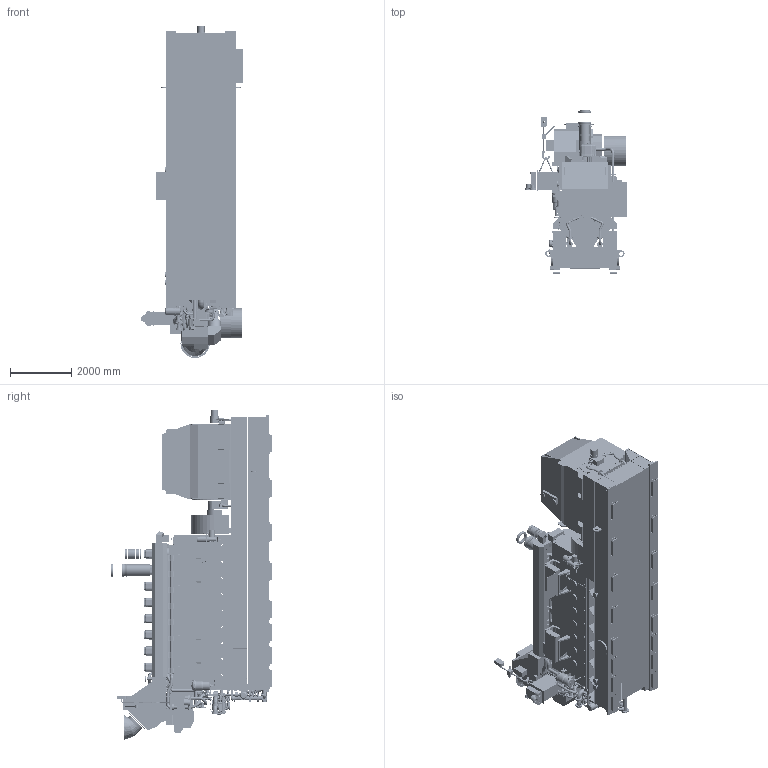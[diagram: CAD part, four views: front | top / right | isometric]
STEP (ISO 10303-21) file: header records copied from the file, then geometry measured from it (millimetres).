
FILE_DESCRIPTION((''),'2;1');
FILE_NAME('8M34DF_GENSET_STP_ASM','2015-11-18T',('petera8'),('Caterpillar Motoren GmbH & Co.KG'),'PRO/ENGINEER BY PARAMETRIC TECHNOLOGY CORPORATION, 2014200','PRO/ENGINEER BY PARAMETRIC TECHNOLOGY CORPORATION, 2014200','');
FILE_SCHEMA(('CONFIG_CONTROL_DESIGN'));
Products named in the file (5): 8M34DF_GENSET_STP_ENGINE_P01; 8M34DF_GENSET_STP_COMPLETE_P01; 8M34DF_GENSET_STP_RESIL_MO_P01; 8M34DF_GENSET_STP_REM_SPAC_P01; 8M34DF_GENSET_STP_ASM
Assembly tree (4 placements, depth 2):
  8M34DF_GENSET_STP_ASM
    8M34DF_GENSET_STP_ENGINE_P01
    8M34DF_GENSET_STP_COMPLETE_P01
    8M34DF_GENSET_STP_RESIL_MO_P01
    8M34DF_GENSET_STP_REM_SPAC_P01
Bounding box: 3354 x 5336 x 10876.27 mm (x, y, z)
Surface area: 298980187.4 mm2 (no closed solid volume)
Topology: 0 solids, 1149 shells, 5022 faces, 25556 edges, 21197 vertices
Faces by surface type: plane 2690, cylinder 1417, bspline 492, torus 206, extrusion 84, sphere 76, cone 55, revolution 2
Entity records: 346625 total; most frequent: CARTESIAN_POINT 121795, DIRECTION 41172, ORIENTED_EDGE 33030, EDGE_CURVE 25486, VERTEX_POINT 21197, AXIS2_PLACEMENT_3D 13781, VECTOR 13608, LINE 13524
